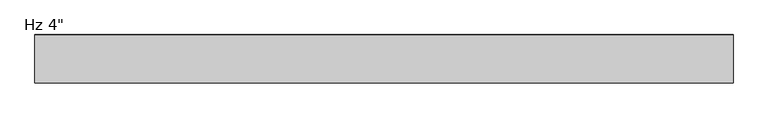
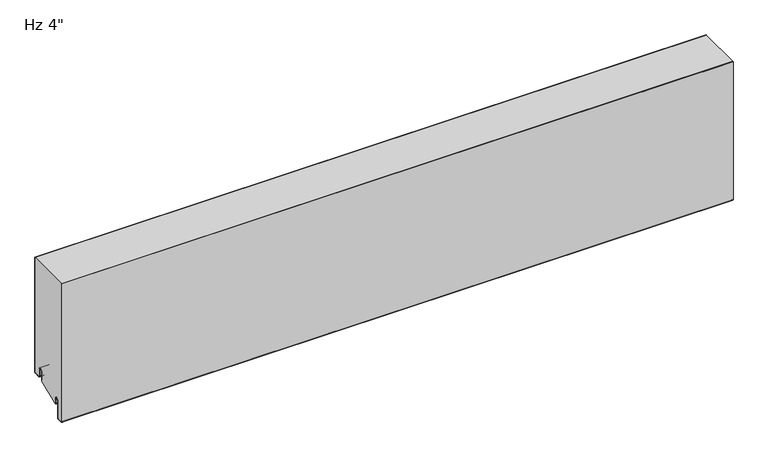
"""IFC4 building model written with IfcOpenShell, lengths in millimetres: plate geometry."""

from ifc_helpers import new_model, si_unit, point, frame, frame_2d, origin, place, context, project, spatial, polyline, circle_curve, trimmed, segment, composite_curve, outline, extrude, source, transform, mapped, element, save


def plate_0f1cd221(model_context):
    return source(origin(), model_context, "Body", "SweptSolid", [
        extrude(outline(composite_curve([segment(trimmed(circle_curve(frame_2d((-21.43125, 19.05)), 4.96875), [point((-16.4625, 19.05))], [point((-26.4, 19.05))], True, "CARTESIAN"), True, "CONTINUOUS"), segment(polyline([(-26.4, 19.05), (-26.4, -3.1323422), (-74.6157227, -23.01875), (-76.2, -23.01875), (-76.2, -13.5080174), (-76.99375, -13.5080174), (-76.7875, -11.9205174)]), True, "CONTINUOUS"), segment(trimmed(circle_curve(frame_2d((-81.75625, -11.9205174)), 4.96875), [point((-76.7875, -11.9205174))], [point((-86.725, -11.9205174))], True, "CARTESIAN"), True, "CONTINUOUS"), segment(polyline([(-86.725, -11.9205174), (-86.725, -50.1038221)]), True, "CONTINUOUS"), segment(trimmed(circle_curve(frame_2d((-88.10625, -50.1038221)), 1.38125), [point((-86.725, -50.1038221))], [point((-88.033961, -51.4831791))], False, "CARTESIAN"), True, "CONTINUOUS"), segment(polyline([(-88.033961, -51.4831791), (-99.146461, -52.0655606)]), True, "CONTINUOUS"), segment(trimmed(circle_curve(frame_2d((-99.21875, -50.6862035)), 1.38125), [point((-99.146461, -52.0655606))], [point((-100.6, -50.6862035))], False, "CARTESIAN"), True, "CONTINUOUS"), segment(polyline([(-100.6, -50.6862035), (-100.6, 266.4), (-1.0, 266.4), (-1.0, 3.175)]), True, "CONTINUOUS"), segment(trimmed(circle_curve(frame_2d((-2.38125, 3.175)), 1.38125), [point((-1.0, 3.175))], [point((-2.38125, 1.79375))], False, "CARTESIAN"), True, "CONTINUOUS"), segment(polyline([(-2.38125, 1.79375), (-15.08125, 1.79375)]), True, "CONTINUOUS"), segment(trimmed(circle_curve(frame_2d((-15.08125, 3.175)), 1.38125), [point((-15.08125, 1.79375))], [point((-16.4625, 3.175))], False, "CARTESIAN"), True, "CONTINUOUS"), segment(polyline([(-16.4625, 3.175), (-16.4625, 19.05)]), True, "CONTINUOUS")], self_intersect=False)), frame((-730.0, 0.0, 0.0), z_axis=(1.0, 0.0, 0.0), x_axis=(0.0, 1.0, 0.0)), (0.0, 0.0, 1.0), 1460.0),
        extrude(outline(composite_curve([segment(polyline([(-25.4, 0.79375), (-26.4, 0.79375), (-26.4, 19.05)]), True, "CONTINUOUS"), segment(trimmed(circle_curve(frame_2d((-21.43125, 19.05)), 4.96875), [point((-26.4, 19.05))], [point((-16.4625, 19.05))], False, "CARTESIAN"), True, "CONTINUOUS"), segment(polyline([(-16.4625, 19.05), (-16.4625, 3.175)]), True, "CONTINUOUS"), segment(trimmed(circle_curve(frame_2d((-15.08125, 3.175)), 1.38125), [point((-16.4625, 3.175))], [point((-15.08125, 1.79375))], True, "CARTESIAN"), True, "CONTINUOUS"), segment(polyline([(-15.08125, 1.79375), (-2.38125, 1.79375)]), True, "CONTINUOUS"), segment(trimmed(circle_curve(frame_2d((-2.38125, 3.175)), 1.38125), [point((-2.38125, 1.79375))], [point((-1.0, 3.175))], True, "CARTESIAN"), True, "CONTINUOUS"), segment(polyline([(-1.0, 3.175), (-1.0, 266.4), (0.0, 266.4), (0.0, 3.175)]), True, "CONTINUOUS"), segment(trimmed(circle_curve(frame_2d((-2.38125, 3.175)), 2.38125), [point((0.0, 3.175))], [point((-2.38125, 0.79375))], False, "CARTESIAN"), True, "CONTINUOUS"), segment(polyline([(-2.38125, 0.79375), (-15.08125, 0.79375)]), True, "CONTINUOUS"), segment(trimmed(circle_curve(frame_2d((-15.08125, 3.175)), 2.38125), [point((-15.08125, 0.79375))], [point((-17.4625, 3.175))], False, "CARTESIAN"), True, "CONTINUOUS"), segment(polyline([(-17.4625, 3.175), (-17.4625, 19.05)]), True, "CONTINUOUS"), segment(trimmed(circle_curve(frame_2d((-21.43125, 19.05)), 3.96875), [point((-17.4625, 19.05))], [point((-25.4, 19.05))], True, "CARTESIAN"), True, "CONTINUOUS"), segment(polyline([(-25.4, 19.05), (-25.4, 0.79375)]), True, "CONTINUOUS")], self_intersect=False)), frame((-730.0, 0.0, 0.0), z_axis=(1.0, 0.0, 0.0), x_axis=(0.0, 1.0, 0.0)), (0.0, 0.0, 1.0), 1460.0),
        extrude(outline(composite_curve([segment(trimmed(circle_curve(frame_2d((-76.99375, -23.2314549)), 0.79375), [point((-76.2, -23.2314549))], [point((-77.7875, -23.2314549))], False, "CARTESIAN"), True, "CONTINUOUS"), segment(polyline([(-77.7875, -23.2314549), (-77.7875, -11.9205174)]), True, "CONTINUOUS"), segment(trimmed(circle_curve(frame_2d((-81.75625, -11.9205174)), 3.96875), [point((-77.7875, -11.9205174))], [point((-85.725, -11.9205174))], True, "CARTESIAN"), True, "CONTINUOUS"), segment(polyline([(-85.725, -11.9205174), (-85.725, -50.1038221)]), True, "CONTINUOUS"), segment(trimmed(circle_curve(frame_2d((-88.10625, -50.1038221)), 2.38125), [point((-85.725, -50.1038221))], [point((-87.981625, -52.4818086))], False, "CARTESIAN"), True, "CONTINUOUS"), segment(polyline([(-87.981625, -52.4818086), (-99.094125, -53.0641901)]), True, "CONTINUOUS"), segment(trimmed(circle_curve(frame_2d((-99.21875, -50.6862035)), 2.38125), [point((-99.094125, -53.0641901))], [point((-101.6, -50.6862035))], False, "CARTESIAN"), True, "CONTINUOUS"), segment(polyline([(-101.6, -50.6862035), (-101.6, 266.4), (-100.6, 266.4), (-100.6, -50.6862035)]), True, "CONTINUOUS"), segment(trimmed(circle_curve(frame_2d((-99.21875, -50.6862035)), 1.38125), [point((-100.6, -50.6862035))], [point((-99.146461, -52.0655606))], True, "CARTESIAN"), True, "CONTINUOUS"), segment(polyline([(-99.146461, -52.0655606), (-88.033961, -51.4831791)]), True, "CONTINUOUS"), segment(trimmed(circle_curve(frame_2d((-88.10625, -50.1038221)), 1.38125), [point((-88.033961, -51.4831791))], [point((-86.725, -50.1038221))], True, "CARTESIAN"), True, "CONTINUOUS"), segment(polyline([(-86.725, -50.1038221), (-86.725, -11.9205174)]), True, "CONTINUOUS"), segment(trimmed(circle_curve(frame_2d((-81.75625, -11.9205174)), 4.96875), [point((-86.725, -11.9205174))], [point((-76.7875, -11.9205174))], False, "CARTESIAN"), True, "CONTINUOUS"), segment(polyline([(-76.7875, -11.9205174), (-76.99375, -13.5080174), (-76.2, -13.5080174), (-76.2, -23.2314549)]), True, "CONTINUOUS")], self_intersect=False)), frame((-730.0, 0.0, 0.0), z_axis=(1.0, 0.0, 0.0), x_axis=(0.0, 1.0, 0.0)), (0.0, 0.0, 1.0), 1460.0),
    ])


if __name__ == "__main__":
    model = new_model("IFC4")
    model_context = context("Model", 3, world=origin())
    ifc_project = project(units=[si_unit("LENGTHUNIT", "METRE", prefix="MILLI")], contexts=[model_context])
    site = spatial("IfcSite", under=ifc_project)
    building = spatial("IfcBuilding", under=site)
    placement = place(None, origin())
    plate_shape = plate_0f1cd221(model_context)
    element("IfcPlate", 1, ObjectType="KIP-42-DWHR-R19-CP-Hz-F : Hz 4\"", at=placement, inside=building, context=model_context, shape_type="MappedRepresentation", body=[
        mapped(plate_shape, transform((0.0, 0.0, 0.0), x_axis=(1.0, 0.0, 0.0), y_axis=(0.0, 1.0, 0.0), z_axis=(0.0, 0.0, 1.0))),
    ])
    save(model, "model.ifc")
